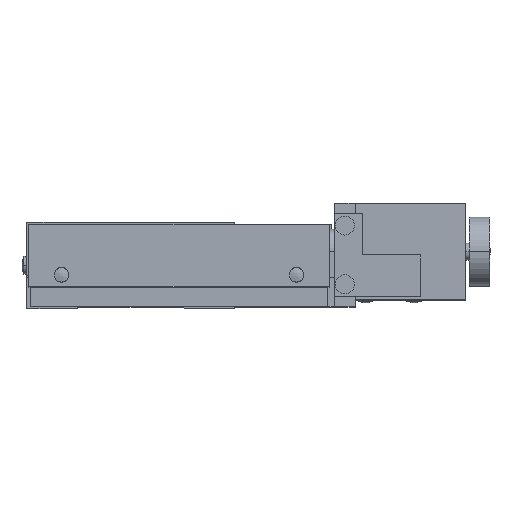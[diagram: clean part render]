
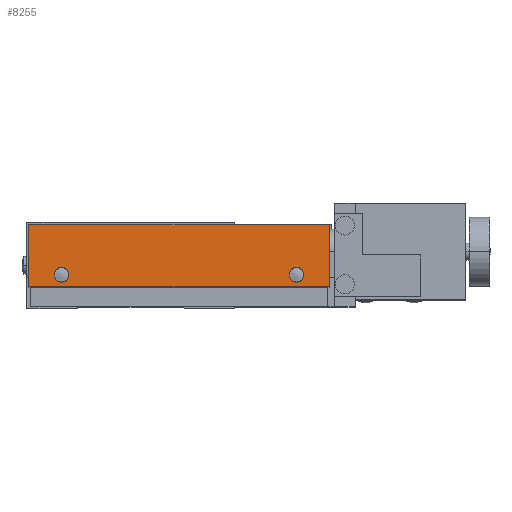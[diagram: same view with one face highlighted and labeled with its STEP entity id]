
A CAD part, top view. The second image highlights one B-rep face of the part: STEP entity #8255.
In plain terms, the highlighted planar face has unit normal (0, 0, 1) as drawn and (0, -1, 0) by its records, which use the part's own axes.
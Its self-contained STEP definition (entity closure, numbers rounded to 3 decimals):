
#506 = CARTESIAN_POINT ( 'NONE',  ( 57.5, -47., 24.2 ) ) ;
#679 = EDGE_LOOP ( 'NONE', ( #3640, #3614 ) ) ;
#845 = VERTEX_POINT ( 'NONE', #10797 ) ;
#903 = CARTESIAN_POINT ( 'NONE',  ( -17.85, -47., 9.7 ) ) ;
#920 = AXIS2_PLACEMENT_3D ( 'NONE', #12846, #6944, #987 ) ;
#987 = DIRECTION ( 'NONE',  ( -1., 0., 0. ) ) ;
#999 = CARTESIAN_POINT ( 'NONE',  ( 57.5, -47., 6.2 ) ) ;
#1441 = FACE_OUTER_BOUND ( 'NONE', #12297, .T. ) ;
#1531 = CIRCLE ( 'NONE', #12258, 2.15 ) ;
#1800 = VERTEX_POINT ( 'NONE', #9100 ) ;
#2476 = CARTESIAN_POINT ( 'NONE',  ( 57.5, -47., 6.2 ) ) ;
#2577 = EDGE_CURVE ( 'NONE', #10910, #1800, #6373, .T. ) ;
#2729 = CARTESIAN_POINT ( 'NONE',  ( 57.5, -47., 24.2 ) ) ;
#2790 = CIRCLE ( 'NONE', #6283, 2.15 ) ;
#2851 = VERTEX_POINT ( 'NONE', #6326 ) ;
#3001 = PLANE ( 'NONE',  #5752 ) ;
#3179 = CARTESIAN_POINT ( 'NONE',  ( -29.5, -47., 6.2 ) ) ;
#3331 = CIRCLE ( 'NONE', #920, 2.15 ) ;
#3614 = ORIENTED_EDGE ( 'NONE', *, *, #10249, .F. ) ;
#3640 = ORIENTED_EDGE ( 'NONE', *, *, #7444, .F. ) ;
#3723 = VECTOR ( 'NONE', #6451, 1000. ) ;
#3781 = VERTEX_POINT ( 'NONE', #903 ) ;
#3801 = CARTESIAN_POINT ( 'NONE',  ( 48., -47., 9.7 ) ) ;
#3987 = DIRECTION ( 'NONE',  ( 0., 1., 0. ) ) ;
#4161 = DIRECTION ( 'NONE',  ( 0., 0., -1. ) ) ;
#4530 = VECTOR ( 'NONE', #5557, 1000. ) ;
#4631 = CARTESIAN_POINT ( 'NONE',  ( 48., -47., 9.7 ) ) ;
#4657 = CARTESIAN_POINT ( 'NONE',  ( 45.85, -47., 9.7 ) ) ;
#4793 = DIRECTION ( 'NONE',  ( -1., 0., 0. ) ) ;
#4820 = DIRECTION ( 'NONE',  ( 0., -1., 0. ) ) ;
#5557 = DIRECTION ( 'NONE',  ( -1., 0., 0. ) ) ;
#5646 = DIRECTION ( 'NONE',  ( -1., 0., 0. ) ) ;
#5752 = AXIS2_PLACEMENT_3D ( 'NONE', #999, #3987, #10924 ) ;
#6041 = CARTESIAN_POINT ( 'NONE',  ( -22.15, -47., 9.7 ) ) ;
#6283 = AXIS2_PLACEMENT_3D ( 'NONE', #10761, #4820, #11753 ) ;
#6326 = CARTESIAN_POINT ( 'NONE',  ( 57.5, -47., 6.2 ) ) ;
#6373 = LINE ( 'NONE', #506, #11322 ) ;
#6451 = DIRECTION ( 'NONE',  ( 0., 0., -1. ) ) ;
#6571 = CIRCLE ( 'NONE', #6672, 2.15 ) ;
#6672 = AXIS2_PLACEMENT_3D ( 'NONE', #4631, #11585, #5646 ) ;
#6944 = DIRECTION ( 'NONE',  ( 0., -1., 0. ) ) ;
#7211 = CARTESIAN_POINT ( 'NONE',  ( -29.5, -47., 6.2 ) ) ;
#7234 = EDGE_LOOP ( 'NONE', ( #7378, #10401 ) ) ;
#7271 = ORIENTED_EDGE ( 'NONE', *, *, #8364, .T. ) ;
#7378 = ORIENTED_EDGE ( 'NONE', *, *, #7926, .F. ) ;
#7444 = EDGE_CURVE ( 'NONE', #3781, #8300, #3331, .T. ) ;
#7500 = VECTOR ( 'NONE', #4161, 1000. ) ;
#7862 = EDGE_CURVE ( 'NONE', #2851, #10749, #12433, .T. ) ;
#7926 = EDGE_CURVE ( 'NONE', #845, #10905, #6571, .T. ) ;
#8255 = ADVANCED_FACE ( 'NONE', ( #11970, #1441, #9364 ), #3001, .F. ) ;
#8300 = VERTEX_POINT ( 'NONE', #6041 ) ;
#8364 = EDGE_CURVE ( 'NONE', #1800, #10749, #10111, .T. ) ;
#8689 = LINE ( 'NONE', #12359, #3723 ) ;
#8904 = ORIENTED_EDGE ( 'NONE', *, *, #7862, .F. ) ;
#9100 = CARTESIAN_POINT ( 'NONE',  ( -29.5, -47., 24.2 ) ) ;
#9364 = FACE_BOUND ( 'NONE', #7234, .T. ) ;
#9459 = DIRECTION ( 'NONE',  ( -1., 0., 0. ) ) ;
#10024 = EDGE_CURVE ( 'NONE', #10910, #2851, #8689, .T. ) ;
#10111 = LINE ( 'NONE', #3179, #7500 ) ;
#10249 = EDGE_CURVE ( 'NONE', #8300, #3781, #2790, .T. ) ;
#10401 = ORIENTED_EDGE ( 'NONE', *, *, #10937, .F. ) ;
#10733 = DIRECTION ( 'NONE',  ( 0., -1., 0. ) ) ;
#10749 = VERTEX_POINT ( 'NONE', #7211 ) ;
#10761 = CARTESIAN_POINT ( 'NONE',  ( -20., -47., 9.7 ) ) ;
#10797 = CARTESIAN_POINT ( 'NONE',  ( 50.15, -47., 9.7 ) ) ;
#10905 = VERTEX_POINT ( 'NONE', #4657 ) ;
#10910 = VERTEX_POINT ( 'NONE', #2729 ) ;
#10924 = DIRECTION ( 'NONE',  ( -1., 0., 0. ) ) ;
#10937 = EDGE_CURVE ( 'NONE', #10905, #845, #1531, .T. ) ;
#11322 = VECTOR ( 'NONE', #9459, 1000. ) ;
#11585 = DIRECTION ( 'NONE',  ( 0., -1., 0. ) ) ;
#11663 = ORIENTED_EDGE ( 'NONE', *, *, #2577, .T. ) ;
#11753 = DIRECTION ( 'NONE',  ( -1., 0., 0. ) ) ;
#11970 = FACE_BOUND ( 'NONE', #679, .T. ) ;
#12258 = AXIS2_PLACEMENT_3D ( 'NONE', #3801, #10733, #4793 ) ;
#12297 = EDGE_LOOP ( 'NONE', ( #7271, #8904, #12462, #11663 ) ) ;
#12359 = CARTESIAN_POINT ( 'NONE',  ( 57.5, -47., 6.2 ) ) ;
#12433 = LINE ( 'NONE', #2476, #4530 ) ;
#12462 = ORIENTED_EDGE ( 'NONE', *, *, #10024, .F. ) ;
#12846 = CARTESIAN_POINT ( 'NONE',  ( -20., -47., 9.7 ) ) ;
